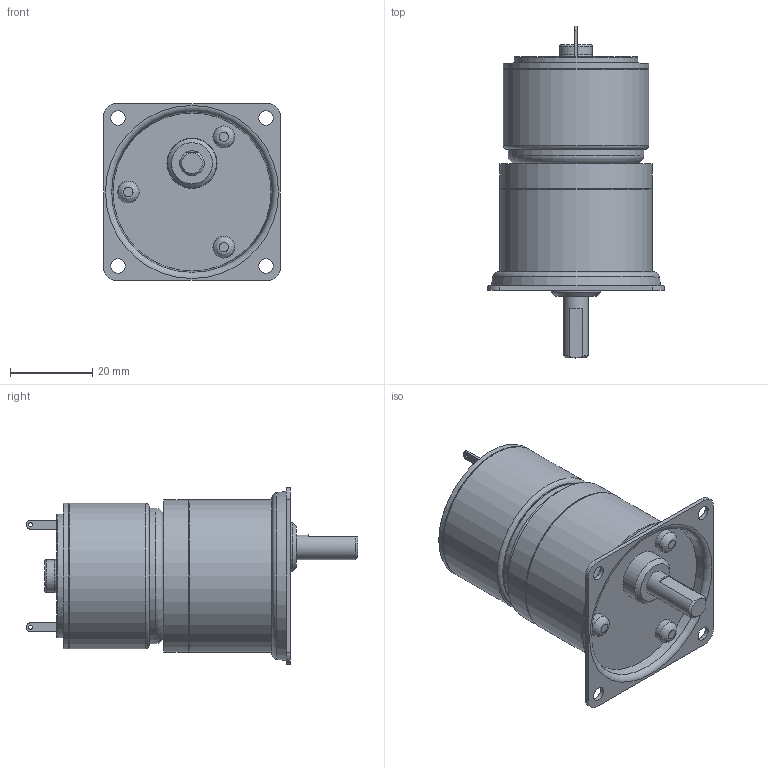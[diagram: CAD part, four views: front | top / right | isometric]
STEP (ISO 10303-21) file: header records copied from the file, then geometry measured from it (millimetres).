
FILE_DESCRIPTION((''),'2;1');
FILE_NAME('C:\Documents and Settings\SSEGAWA\デスクトップ\TP-3526G-PHM-3.STP','2013-07-09T17:43:17',('SSEGAWA'),(''),'Autodesk Inventor 2010','Autodesk Inventor 2010','');
FILE_SCHEMA(('CONFIG_CONTROL_DESIGN'));
Length unit declared in the file: millimetre
Products named in the file (5): tp_3526g_phm_3; phm_3; hm_3; □43; tp_3526g
Assembly tree (4 placements, depth 3):
  tp_3526g_phm_3
    phm_3
      hm_3
      □43
    tp_3526g
Bounding box: 43 x 80.8 x 43 mm (x, y, z)
Volume: 56246.2 mm3; surface area: 15288.1 mm2
Topology: 3 solids, 3 shells, 105 faces, 225 edges, 148 vertices
Faces by surface type: plane 40, cylinder 30, bspline 24, torus 6, cone 5
Full cylindrical faces by diameter (mm): 2 x1, 2.4 x1, 5 x2, 5.3 x3, 6 x1, 8 x1, 10 x1, 12 x1, 12.2 x1, 30 x1, 33 x1, 35 x1, 35.4 x2, 36.6 x1, 37 x2
Entity records: 3045 total; most frequent: CARTESIAN_POINT 963, DIRECTION 431, ORIENTED_EDGE 298, EDGE_LOOP 195, AXIS2_PLACEMENT_3D 194, EDGE_CURVE 149, VERTEX_POINT 126, FACE_OUTER_BOUND 105
